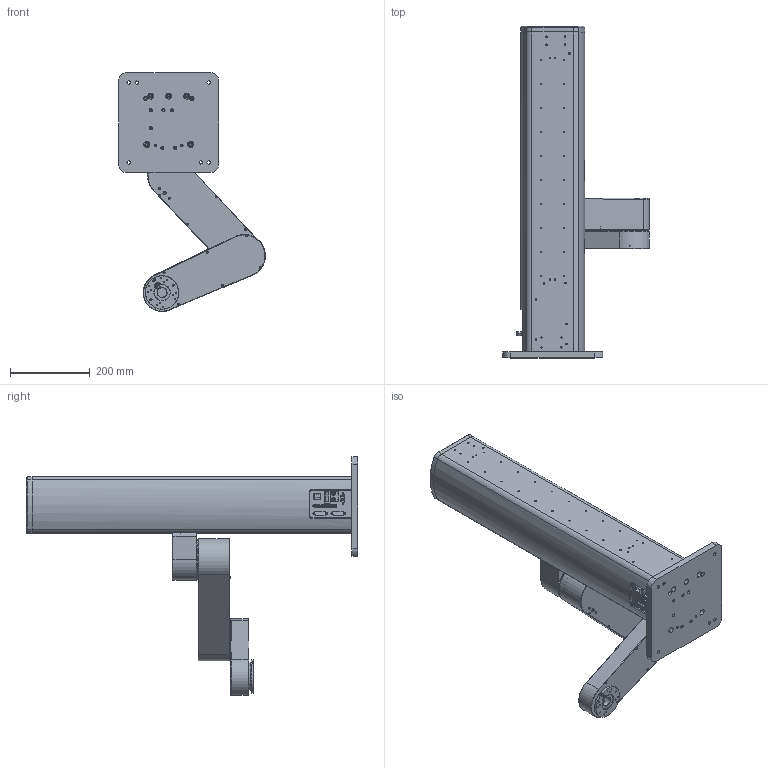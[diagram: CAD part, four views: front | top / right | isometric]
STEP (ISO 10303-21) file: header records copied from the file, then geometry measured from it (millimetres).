
FILE_DESCRIPTION (( 'STEP AP214' ), '1' );
FILE_NAME ('4150淕儂耀倰.STEP', '2022-01-06T09:17:03', ( '' ), ( '' ), 'SwSTEP 2.0', 'SolidWorks 2018', '' );
FILE_SCHEMA (( 'AUTOMOTIVE_DESIGN' ));
Length unit declared in the file: millimetre
Products named in the file (6): 嘐隅釱郪璃; 菴媼旋极郪璃; 奻狟堍雄郪璃; 藺傷楊擘; 菴珨旋极郪璃; 4150淕儂耀倰
Assembly tree (5 placements, depth 2):
  4150淕儂耀倰
    奻狟堍雄郪璃
    嘐隅釱郪璃
    菴媼旋极郪璃
    藺傷楊擘
    菴珨旋极郪璃
Bounding box: 366.72 x 830 x 597.62 mm (x, y, z)
Volume: 9722961.5 mm3; surface area: 1581714.8 mm2
Topology: 31 solids, 34 shells, 3050 faces, 7846 edges, 4913 vertices
Faces by surface type: cylinder 1234, plane 1159, cone 491, bspline 89, torus 77
Entity records: 115614 total; most frequent: CARTESIAN_POINT 22176, DIRECTION 16185, ORIENTED_EDGE 15374, EDGE_CURVE 7687, AXIS2_PLACEMENT_3D 6093, VERTEX_POINT 4907, LINE 3999, VECTOR 3999
